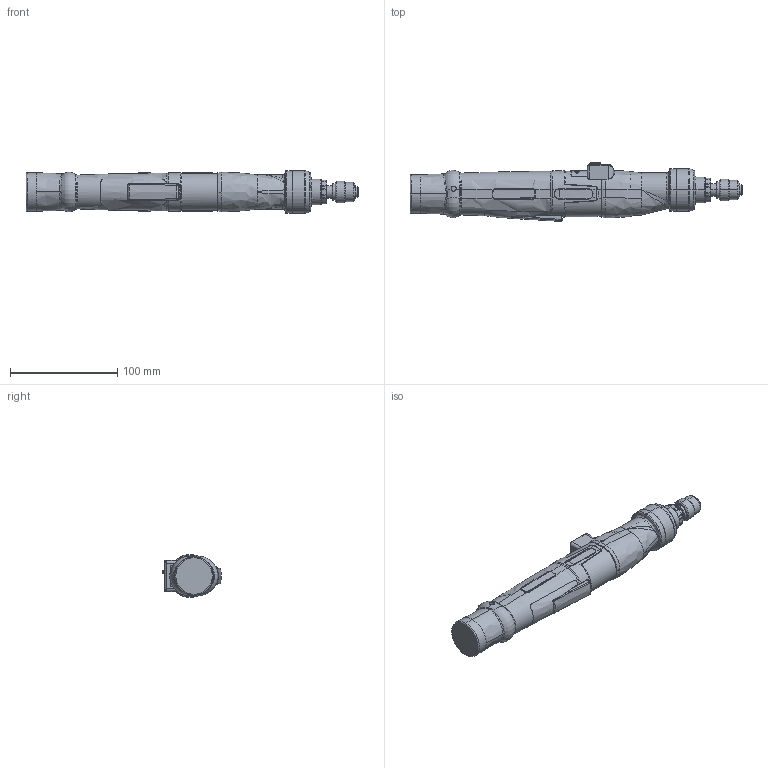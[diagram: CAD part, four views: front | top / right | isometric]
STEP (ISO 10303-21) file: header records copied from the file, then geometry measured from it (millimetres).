
FILE_DESCRIPTION (( 'STEP AP203' ), '1' );
FILE_NAME ('70141256_HSXK1006ZH14P.STEP', '2026-03-12T12:16:14', ( '' ), ( '' ), 'SwSTEP 2.0', 'SolidWorks 2020', '' );
FILE_SCHEMA (( 'CONFIG_CONTROL_DESIGN' ));
Length unit declared in the file: millimetre
Products named in the file (5): 70141240; 70141245; 70141199; 70141256_HSXK1006ZH14P; 70141211
Assembly tree (4 placements, depth 2):
  70141256_HSXK1006ZH14P
    70141199
    70141211
    70141240
    70141245
Bounding box: 310.2 x 54.93 x 40 mm (x, y, z)
Volume: 319683.7 mm3; surface area: 72018.4 mm2
Topology: 5 solids, 6 shells, 1269 faces, 3273 edges, 2033 vertices
Faces by surface type: cylinder 423, bspline 340, plane 279, torus 103, cone 99, sphere 25
Entity records: 62127 total; most frequent: CARTESIAN_POINT 33491, ORIENTED_EDGE 6478, DIRECTION 5147, EDGE_CURVE 3239, AXIS2_PLACEMENT_3D 2090, VERTEX_POINT 2031, EDGE_LOOP 1330, ADVANCED_FACE 1269
